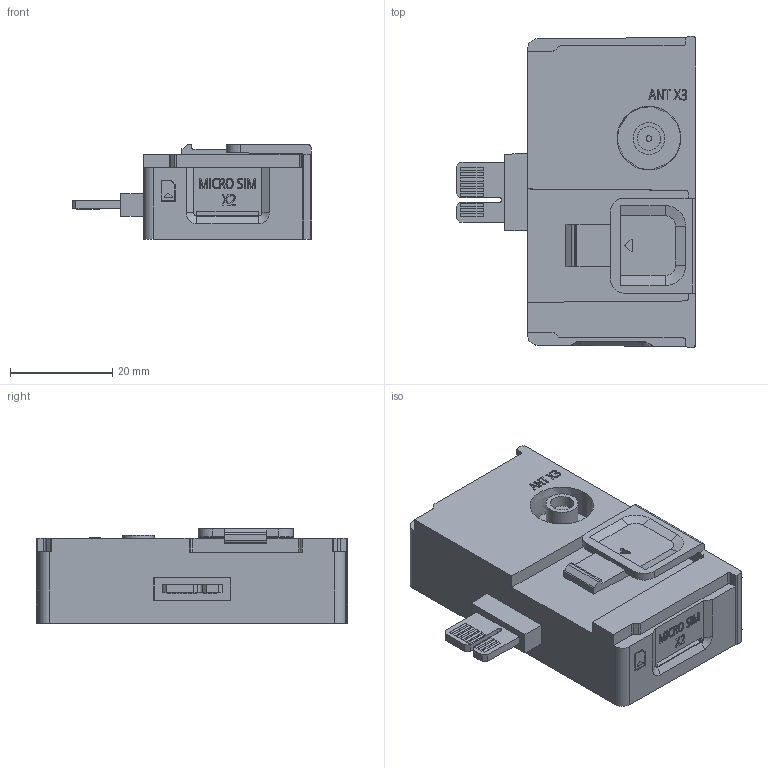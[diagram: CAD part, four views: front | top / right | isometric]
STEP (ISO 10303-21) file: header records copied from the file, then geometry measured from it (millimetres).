
FILE_DESCRIPTION(/* description */ (''),/* implementation_level */ '2;1');
FILE_NAME(/* name */ '6AV6648-1CM11-3AX0_3d.stp',/* time_stamp */ '2025-03-07T04:19:57+01:00',/* author */ (''),/* organization */ (''),/* preprocessor_version */ 'ST-DEVELOPER v18.102',/* originating_system */ 'SIEMENS PLM Software NX 2023',/* authorisation */ '');
FILE_SCHEMA (('AUTOMOTIVE_DESIGN { 1 0 10303 214 3 1 1 1 }'));
Length unit declared in the file: millimetre
Products named in the file (3): A5E54383685A_RS-AA_001_2-labeling; A5E54383689A_RS-AA_001_2-box; A5E54383684A_RS-AA_001_2-CAx_6AV66481CM113AX0
Assembly tree (2 placements, depth 2):
  A5E54383684A_RS-AA_001_2-CAx_6AV66481CM113AX0
    A5E54383689A_RS-AA_001_2-box
    A5E54383685A_RS-AA_001_2-labeling
Bounding box: 47 x 60.96 x 18.7 mm (x, y, z)
Volume: 31181.7 mm3; surface area: 9506.7 mm2
Topology: 36 solids, 36 shells, 647 faces, 1620 edges, 1078 vertices
Faces by surface type: plane 501, extrusion 105, cylinder 34, bspline 7
Full cylindrical faces by diameter (mm): 1.105 x1, 4.6 x1, 6.24 x1
Entity records: 23418 total; most frequent: CARTESIAN_POINT 7574, ORIENTED_EDGE 3226, DIRECTION 2224, EDGE_CURVE 1613, VERTEX_POINT 1076, VECTOR 1066, LINE 961, EDGE_LOOP 711
